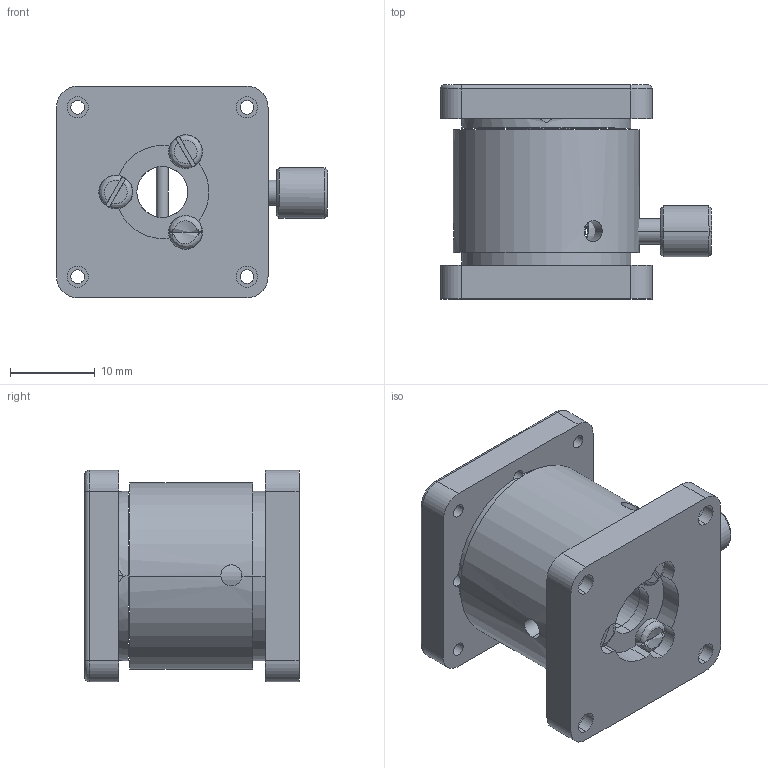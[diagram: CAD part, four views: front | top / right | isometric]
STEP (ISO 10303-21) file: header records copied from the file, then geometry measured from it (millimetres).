
FILE_DESCRIPTION (( 'STEP AP214' ), '1' );
FILE_NAME ('PT-SD405.STEP', '2022-09-12T03:58:31', ( '' ), ( '' ), 'SwSTEP 2.0', 'SolidWorks 2017', '' );
FILE_SCHEMA (( 'AUTOMOTIVE_DESIGN' ));
Length unit declared in the file: millimetre
Products named in the file (1): PT-SD405
Bounding box: 32.02 x 25.3 x 25 mm (x, y, z)
Surface area: 5266.5 mm2 (no closed solid volume)
Topology: 0 solids, 14 shells, 155 faces, 443 edges, 292 vertices
Faces by surface type: cylinder 88, plane 43, bspline 14, cone 10
Entity records: 6420 total; most frequent: CARTESIAN_POINT 2360, DIRECTION 868, ORIENTED_EDGE 786, EDGE_CURVE 439, AXIS2_PLACEMENT_3D 356, VERTEX_POINT 292, CIRCLE 214, EDGE_LOOP 197
